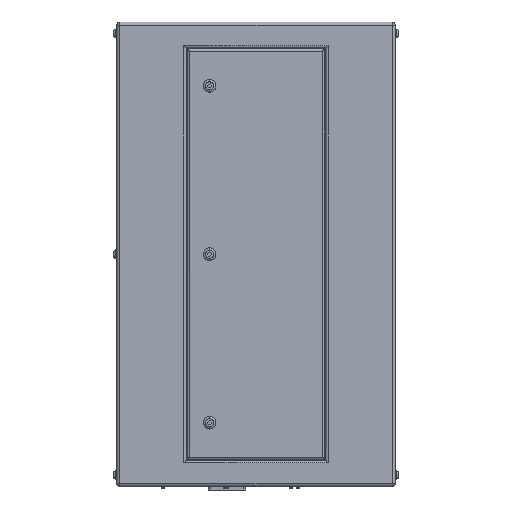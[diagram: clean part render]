
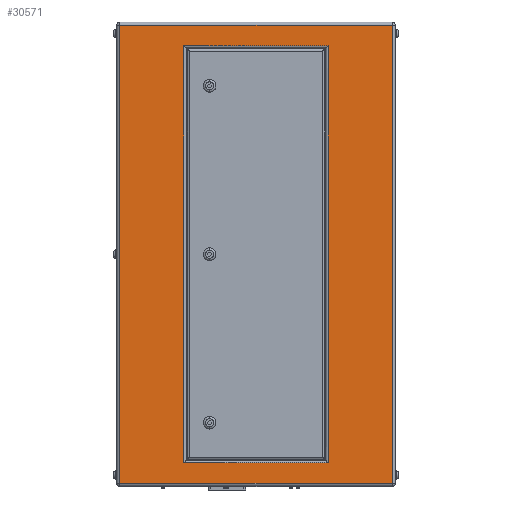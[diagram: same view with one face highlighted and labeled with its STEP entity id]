
A CAD part, left-side view. The second image highlights one B-rep face of the part: STEP entity #30571.
In plain terms, the highlighted planar face has unit normal (-1, 0, 0).
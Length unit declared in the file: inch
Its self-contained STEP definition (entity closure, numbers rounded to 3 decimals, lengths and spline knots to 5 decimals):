
#216 = VERTEX_POINT ( 'NONE', #1675 ) ;
#229 = ORIENTED_EDGE ( 'NONE', *, *, #20080, .T. ) ;
#312 = CARTESIAN_POINT ( 'NONE',  ( -16., 11.734, -19.734 ) ) ;
#323 = LINE ( 'NONE', #26468, #24290 ) ;
#745 = VECTOR ( 'NONE', #18347, 39.37008 ) ;
#1675 = CARTESIAN_POINT ( 'NONE',  ( -16., -6.2, 17.95 ) ) ;
#3196 = LINE ( 'NONE', #26323, #27277 ) ;
#3621 = AXIS2_PLACEMENT_3D ( 'NONE', #23882, #11942, #9458 ) ;
#5899 = VERTEX_POINT ( 'NONE', #23473 ) ;
#6513 = ORIENTED_EDGE ( 'NONE', *, *, #11353, .T. ) ;
#6724 = CARTESIAN_POINT ( 'NONE',  ( -16., 11.734, 19.734 ) ) ;
#6918 = LINE ( 'NONE', #18518, #27275 ) ;
#7765 = EDGE_CURVE ( 'NONE', #18895, #9254, #323, .T. ) ;
#8455 = EDGE_CURVE ( 'NONE', #9254, #18600, #33520, .T. ) ;
#8729 = EDGE_CURVE ( 'NONE', #14883, #33993, #20809, .T. ) ;
#9254 = VERTEX_POINT ( 'NONE', #9318 ) ;
#9318 = CARTESIAN_POINT ( 'NONE',  ( -16., -11.734, -19.734 ) ) ;
#9400 = ORIENTED_EDGE ( 'NONE', *, *, #8455, .T. ) ;
#9458 = DIRECTION ( 'NONE',  ( 0., 0., -1. ) ) ;
#9638 = FACE_BOUND ( 'NONE', #11780, .T. ) ;
#10190 = DIRECTION ( 'NONE',  ( 0., 0., 1. ) ) ;
#10397 = CARTESIAN_POINT ( 'NONE',  ( -16., 6., -17.95 ) ) ;
#11353 = EDGE_CURVE ( 'NONE', #5899, #14883, #37135, .T. ) ;
#11780 = EDGE_LOOP ( 'NONE', ( #229, #34517, #6513, #37550 ) ) ;
#11890 = DIRECTION ( 'NONE',  ( 0., -1., 0. ) ) ;
#11942 = DIRECTION ( 'NONE',  ( 1., 0., 0. ) ) ;
#12083 = CARTESIAN_POINT ( 'NONE',  ( -16., 6.2, 17.75 ) ) ;
#12868 = VECTOR ( 'NONE', #10190, 39.37008 ) ;
#13856 = EDGE_CURVE ( 'NONE', #22140, #18895, #21857, .T. ) ;
#14883 = VERTEX_POINT ( 'NONE', #30404 ) ;
#15662 = DIRECTION ( 'NONE',  ( 0., -1., 0. ) ) ;
#15998 = DIRECTION ( 'NONE',  ( 0., 0., -1. ) ) ;
#17644 = PLANE ( 'NONE',  #3621 ) ;
#18123 = VECTOR ( 'NONE', #15998, 39.37008 ) ;
#18347 = DIRECTION ( 'NONE',  ( 0., 0., 1. ) ) ;
#18519 = EDGE_CURVE ( 'NONE', #216, #5899, #3196, .T. ) ;
#18518 = CARTESIAN_POINT ( 'NONE',  ( -16., -6., 17.95 ) ) ;
#18600 = VERTEX_POINT ( 'NONE', #20463 ) ;
#18895 = VERTEX_POINT ( 'NONE', #312 ) ;
#19281 = CARTESIAN_POINT ( 'NONE',  ( -16., 6.2, 17.95 ) ) ;
#19316 = DIRECTION ( 'NONE',  ( 0., 1., 0. ) ) ;
#19693 = VECTOR ( 'NONE', #20389, 39.37008 ) ;
#20080 = EDGE_CURVE ( 'NONE', #33993, #216, #6918, .T. ) ;
#20389 = DIRECTION ( 'NONE',  ( 0., 1., 0. ) ) ;
#20463 = CARTESIAN_POINT ( 'NONE',  ( -16., -11.734, 19.734 ) ) ;
#20809 = LINE ( 'NONE', #12083, #745 ) ;
#21857 = LINE ( 'NONE', #24147, #18123 ) ;
#21860 = VECTOR ( 'NONE', #19316, 39.37008 ) ;
#22140 = VERTEX_POINT ( 'NONE', #6724 ) ;
#23403 = EDGE_CURVE ( 'NONE', #18600, #22140, #23968, .T. ) ;
#23473 = CARTESIAN_POINT ( 'NONE',  ( -16., -6.2, -17.95 ) ) ;
#23882 = CARTESIAN_POINT ( 'NONE',  ( -16., 12., -20. ) ) ;
#23968 = LINE ( 'NONE', #32299, #19693 ) ;
#24147 = CARTESIAN_POINT ( 'NONE',  ( -16., 11.734, -20. ) ) ;
#24290 = VECTOR ( 'NONE', #11890, 39.37008 ) ;
#24847 = EDGE_LOOP ( 'NONE', ( #33249, #9400, #24952, #26351 ) ) ;
#24952 = ORIENTED_EDGE ( 'NONE', *, *, #23403, .T. ) ;
#26323 = CARTESIAN_POINT ( 'NONE',  ( -16., -6.2, -17.75 ) ) ;
#26351 = ORIENTED_EDGE ( 'NONE', *, *, #13856, .T. ) ;
#26468 = CARTESIAN_POINT ( 'NONE',  ( -16., 12., -19.734 ) ) ;
#27275 = VECTOR ( 'NONE', #15662, 39.37008 ) ;
#27277 = VECTOR ( 'NONE', #29738, 39.37008 ) ;
#29738 = DIRECTION ( 'NONE',  ( 0., 0., -1. ) ) ;
#29763 = FACE_OUTER_BOUND ( 'NONE', #24847, .T. ) ;
#30404 = CARTESIAN_POINT ( 'NONE',  ( -16., 6.2, -17.95 ) ) ;
#30571 = ADVANCED_FACE ( 'NONE', ( #9638, #29763 ), #17644, .F. ) ;
#32299 = CARTESIAN_POINT ( 'NONE',  ( -16., 12., 19.734 ) ) ;
#33249 = ORIENTED_EDGE ( 'NONE', *, *, #7765, .T. ) ;
#33520 = LINE ( 'NONE', #33885, #12868 ) ;
#33885 = CARTESIAN_POINT ( 'NONE',  ( -16., -11.734, 19.734 ) ) ;
#33993 = VERTEX_POINT ( 'NONE', #19281 ) ;
#34517 = ORIENTED_EDGE ( 'NONE', *, *, #18519, .T. ) ;
#37135 = LINE ( 'NONE', #10397, #21860 ) ;
#37550 = ORIENTED_EDGE ( 'NONE', *, *, #8729, .T. ) ;
